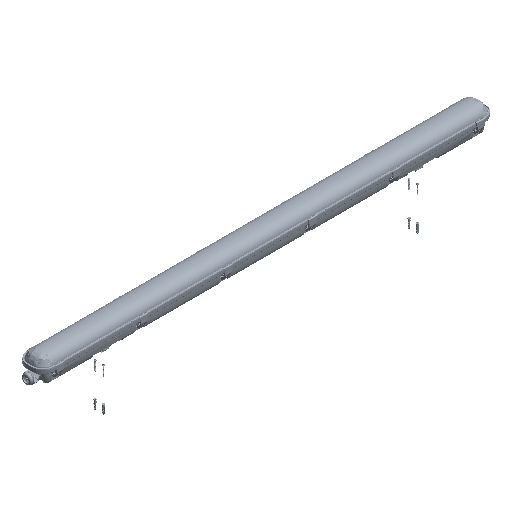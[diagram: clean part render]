
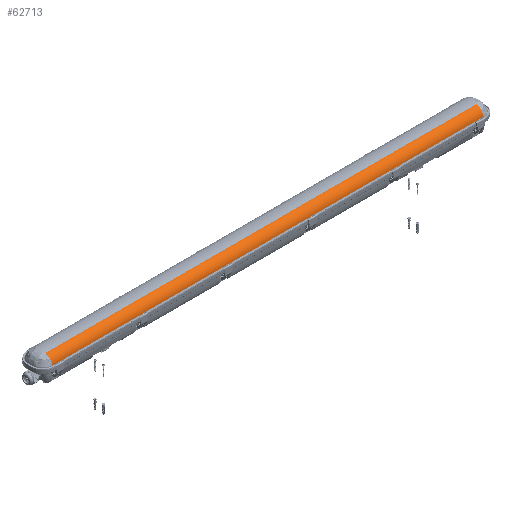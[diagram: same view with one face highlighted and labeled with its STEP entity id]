
A CAD part, isometric view. The second image highlights one B-rep face of the part: STEP entity #62713.
In plain terms, the highlighted cylindrical face has radius 29.9 mm (diameter 59.8 mm), a partial arc.
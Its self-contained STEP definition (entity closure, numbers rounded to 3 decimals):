
#54825=CYLINDRICAL_SURFACE('',#252377,29.9);
#62713=ADVANCED_FACE('',(#78161),#54825,.T.);
#78161=FACE_OUTER_BOUND('',#96658,.T.);
#96658=EDGE_LOOP('',(#141510,#141511,#141512,#141513));
#104391=CIRCLE('',#252375,29.9);
#104392=CIRCLE('',#252376,29.9);
#141510=ORIENTED_EDGE('',*,*,#200042,.F.);
#141511=ORIENTED_EDGE('',*,*,#200043,.F.);
#141512=ORIENTED_EDGE('',*,*,#200044,.T.);
#141513=ORIENTED_EDGE('',*,*,#200038,.F.);
#175571=VERTEX_POINT('',#410444);
#175572=VERTEX_POINT('',#410446);
#175575=VERTEX_POINT('',#410490);
#175576=VERTEX_POINT('',#410492);
#200038=EDGE_CURVE('',#175571,#175572,#221411,.T.);
#200042=EDGE_CURVE('',#175575,#175571,#104391,.T.);
#200043=EDGE_CURVE('',#175576,#175575,#221412,.T.);
#200044=EDGE_CURVE('',#175576,#175572,#104392,.T.);
#221411=LINE('',#410445,#237272);
#221412=LINE('',#410491,#237273);
#237272=VECTOR('',#287938,1.);
#237273=VECTOR('',#287945,1.);
#252375=AXIS2_PLACEMENT_3D('',#410489,#287943,#287944);
#252376=AXIS2_PLACEMENT_3D('',#410493,#287946,#287947);
#252377=AXIS2_PLACEMENT_3D('',#410494,#287948,#287949);
#287938=DIRECTION('',(1.,0.,0.));
#287943=DIRECTION('',(-1.,0.,0.));
#287944=DIRECTION('',(0.,1.,0.));
#287945=DIRECTION('',(-1.,0.,0.));
#287946=DIRECTION('',(-1.,0.,0.));
#287947=DIRECTION('',(0.,1.,0.));
#287948=DIRECTION('',(1.,0.,0.));
#287949=DIRECTION('',(0.,0.,-1.));
#410444=CARTESIAN_POINT('',(2130.419,-15.409,23.457));
#410445=CARTESIAN_POINT('',(3841.938,-15.409,23.457));
#410446=CARTESIAN_POINT('',(3554.923,-15.409,23.457));
#410489=CARTESIAN_POINT('',(2130.419,-9.517,-5.857));
#410490=CARTESIAN_POINT('',(2130.419,-38.963,-0.664));
#410491=CARTESIAN_POINT('',(3841.938,-38.963,-0.664));
#410492=CARTESIAN_POINT('',(3554.923,-38.963,-0.664));
#410493=CARTESIAN_POINT('',(3554.923,-9.517,-5.857));
#410494=CARTESIAN_POINT('',(3841.938,-9.517,-5.857));
